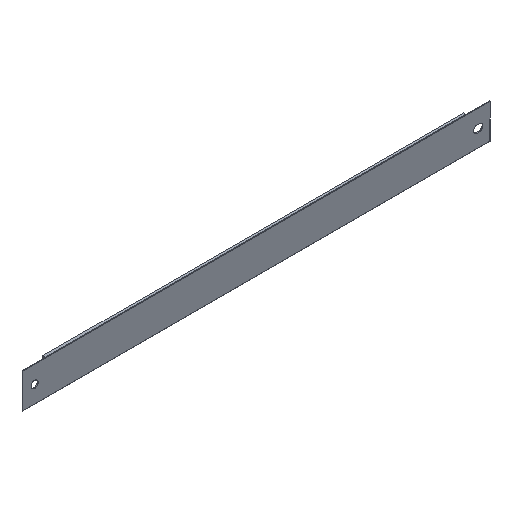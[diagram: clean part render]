
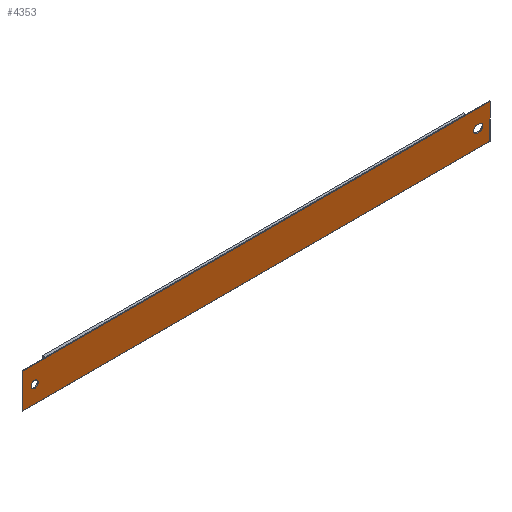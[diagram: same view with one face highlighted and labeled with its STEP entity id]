
A CAD part, isometric view. The second image highlights one B-rep face of the part: STEP entity #4353.
In plain terms, the highlighted planar face has unit normal (0, -1, 0).
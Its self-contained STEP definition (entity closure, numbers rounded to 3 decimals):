
#215 = VECTOR ( 'NONE', #10362, 1000. ) ;
#314 = LINE ( 'NONE', #4958, #6160 ) ;
#369 = AXIS2_PLACEMENT_3D ( 'NONE', #10050, #6282, #5492 ) ;
#428 = CARTESIAN_POINT ( 'NONE',  ( 200., -0.1, -0.1 ) ) ;
#514 = EDGE_CURVE ( 'NONE', #6626, #5590, #10547, .T. ) ;
#572 = CARTESIAN_POINT ( 'NONE',  ( 0., -0.1, -14.86 ) ) ;
#1195 = DIRECTION ( 'NONE',  ( 0., -1., 0. ) ) ;
#1273 = DIRECTION ( 'NONE',  ( -1., 0., 0. ) ) ;
#1330 = VERTEX_POINT ( 'NONE', #1764 ) ;
#1351 = EDGE_CURVE ( 'NONE', #5528, #10251, #4410, .T. ) ;
#1738 = VERTEX_POINT ( 'NONE', #11322 ) ;
#1764 = CARTESIAN_POINT ( 'NONE',  ( 0., -0.1, -0.1 ) ) ;
#1831 = ORIENTED_EDGE ( 'NONE', *, *, #6433, .F. ) ;
#1923 = VECTOR ( 'NONE', #7526, 1000. ) ;
#1930 = VECTOR ( 'NONE', #2580, 1000. ) ;
#1982 = CARTESIAN_POINT ( 'NONE',  ( 194.5, -0.1, -5.98 ) ) ;
#2094 = CARTESIAN_POINT ( 'NONE',  ( 194.5, -0.1, -7.48 ) ) ;
#2209 = AXIS2_PLACEMENT_3D ( 'NONE', #2094, #1195, #5786 ) ;
#2238 = ORIENTED_EDGE ( 'NONE', *, *, #514, .F. ) ;
#2243 = DIRECTION ( 'NONE',  ( 0., 0., -1. ) ) ;
#2357 = CARTESIAN_POINT ( 'NONE',  ( 195.5, -0.1, -7.48 ) ) ;
#2384 = CARTESIAN_POINT ( 'NONE',  ( 195.5, -0.1, -8.98 ) ) ;
#2411 = ORIENTED_EDGE ( 'NONE', *, *, #2508, .F. ) ;
#2501 = AXIS2_PLACEMENT_3D ( 'NONE', #2357, #6103, #10553 ) ;
#2508 = EDGE_CURVE ( 'NONE', #1738, #6908, #8039, .T. ) ;
#2580 = DIRECTION ( 'NONE',  ( 1., 0., 0. ) ) ;
#2729 = CARTESIAN_POINT ( 'NONE',  ( 200., -0.1, -14.86 ) ) ;
#2959 = CARTESIAN_POINT ( 'NONE',  ( 195.5, -0.1, -5.98 ) ) ;
#2965 = LINE ( 'NONE', #11330, #215 ) ;
#3336 = ORIENTED_EDGE ( 'NONE', *, *, #6180, .F. ) ;
#3359 = ORIENTED_EDGE ( 'NONE', *, *, #10875, .F. ) ;
#3408 = AXIS2_PLACEMENT_3D ( 'NONE', #8896, #8221, #6153 ) ;
#3429 = FACE_OUTER_BOUND ( 'NONE', #6648, .T. ) ;
#3493 = CARTESIAN_POINT ( 'NONE',  ( 200., -0.1, -14.86 ) ) ;
#3624 = ORIENTED_EDGE ( 'NONE', *, *, #1351, .F. ) ;
#4064 = CARTESIAN_POINT ( 'NONE',  ( 0., -0.1, -0.1 ) ) ;
#4353 = ADVANCED_FACE ( 'NONE', ( #10889, #6096, #3429 ), #10833, .F. ) ;
#4410 = LINE ( 'NONE', #2729, #7724 ) ;
#4958 = CARTESIAN_POINT ( 'NONE',  ( 200., -0.1, -0.1 ) ) ;
#5065 = CARTESIAN_POINT ( 'NONE',  ( 194.5, -0.1, -5.98 ) ) ;
#5212 = CIRCLE ( 'NONE', #369, 1.5 ) ;
#5492 = DIRECTION ( 'NONE',  ( 0., 0., 1. ) ) ;
#5528 = VERTEX_POINT ( 'NONE', #3493 ) ;
#5590 = VERTEX_POINT ( 'NONE', #1982 ) ;
#5786 = DIRECTION ( 'NONE',  ( 0., 0., 1. ) ) ;
#5961 = EDGE_CURVE ( 'NONE', #1330, #10251, #7592, .T. ) ;
#6096 = FACE_BOUND ( 'NONE', #8329, .T. ) ;
#6103 = DIRECTION ( 'NONE',  ( 0., -1., 0. ) ) ;
#6153 = DIRECTION ( 'NONE',  ( 0., 0., 1. ) ) ;
#6160 = VECTOR ( 'NONE', #2243, 1000. ) ;
#6180 = EDGE_CURVE ( 'NONE', #7959, #11661, #8887, .T. ) ;
#6231 = DIRECTION ( 'NONE',  ( -1., 0., 0. ) ) ;
#6282 = DIRECTION ( 'NONE',  ( 0., -1., 0. ) ) ;
#6433 = EDGE_CURVE ( 'NONE', #6908, #6626, #7738, .T. ) ;
#6449 = ORIENTED_EDGE ( 'NONE', *, *, #5961, .T. ) ;
#6543 = CARTESIAN_POINT ( 'NONE',  ( 5., -0.1, -8.98 ) ) ;
#6626 = VERTEX_POINT ( 'NONE', #2959 ) ;
#6648 = EDGE_LOOP ( 'NONE', ( #6449, #3624, #10862, #9999 ) ) ;
#6908 = VERTEX_POINT ( 'NONE', #2384 ) ;
#6972 = CARTESIAN_POINT ( 'NONE',  ( 5., -0.1, -7.48 ) ) ;
#7297 = ORIENTED_EDGE ( 'NONE', *, *, #9203, .F. ) ;
#7469 = EDGE_CURVE ( 'NONE', #9110, #1330, #2965, .T. ) ;
#7526 = DIRECTION ( 'NONE',  ( 0., 0., -1. ) ) ;
#7555 = EDGE_LOOP ( 'NONE', ( #7297, #3336 ) ) ;
#7592 = LINE ( 'NONE', #4064, #1923 ) ;
#7724 = VECTOR ( 'NONE', #6231, 1000. ) ;
#7738 = CIRCLE ( 'NONE', #2501, 1.5 ) ;
#7923 = AXIS2_PLACEMENT_3D ( 'NONE', #6972, #10676, #11532 ) ;
#7959 = VERTEX_POINT ( 'NONE', #6543 ) ;
#8039 = LINE ( 'NONE', #10656, #1930 ) ;
#8221 = DIRECTION ( 'NONE',  ( 0., 1., 0. ) ) ;
#8329 = EDGE_LOOP ( 'NONE', ( #2411, #3359, #2238, #1831 ) ) ;
#8696 = CARTESIAN_POINT ( 'NONE',  ( 5., -0.1, -5.98 ) ) ;
#8887 = CIRCLE ( 'NONE', #7923, 1.5 ) ;
#8896 = CARTESIAN_POINT ( 'NONE',  ( 200., -0.1, -0.1 ) ) ;
#9110 = VERTEX_POINT ( 'NONE', #428 ) ;
#9203 = EDGE_CURVE ( 'NONE', #11661, #7959, #5212, .T. ) ;
#9253 = VECTOR ( 'NONE', #1273, 1000. ) ;
#9705 = EDGE_CURVE ( 'NONE', #9110, #5528, #314, .T. ) ;
#9999 = ORIENTED_EDGE ( 'NONE', *, *, #7469, .T. ) ;
#10050 = CARTESIAN_POINT ( 'NONE',  ( 5., -0.1, -7.48 ) ) ;
#10251 = VERTEX_POINT ( 'NONE', #572 ) ;
#10362 = DIRECTION ( 'NONE',  ( -1., 0., 0. ) ) ;
#10547 = LINE ( 'NONE', #5065, #9253 ) ;
#10553 = DIRECTION ( 'NONE',  ( 0., 0., 1. ) ) ;
#10656 = CARTESIAN_POINT ( 'NONE',  ( 194.5, -0.1, -8.98 ) ) ;
#10676 = DIRECTION ( 'NONE',  ( 0., -1., 0. ) ) ;
#10727 = CIRCLE ( 'NONE', #2209, 1.5 ) ;
#10833 = PLANE ( 'NONE',  #3408 ) ;
#10862 = ORIENTED_EDGE ( 'NONE', *, *, #9705, .F. ) ;
#10875 = EDGE_CURVE ( 'NONE', #5590, #1738, #10727, .T. ) ;
#10889 = FACE_BOUND ( 'NONE', #7555, .T. ) ;
#11322 = CARTESIAN_POINT ( 'NONE',  ( 194.5, -0.1, -8.98 ) ) ;
#11330 = CARTESIAN_POINT ( 'NONE',  ( 200., -0.1, -0.1 ) ) ;
#11532 = DIRECTION ( 'NONE',  ( 0., 0., 1. ) ) ;
#11661 = VERTEX_POINT ( 'NONE', #8696 ) ;
